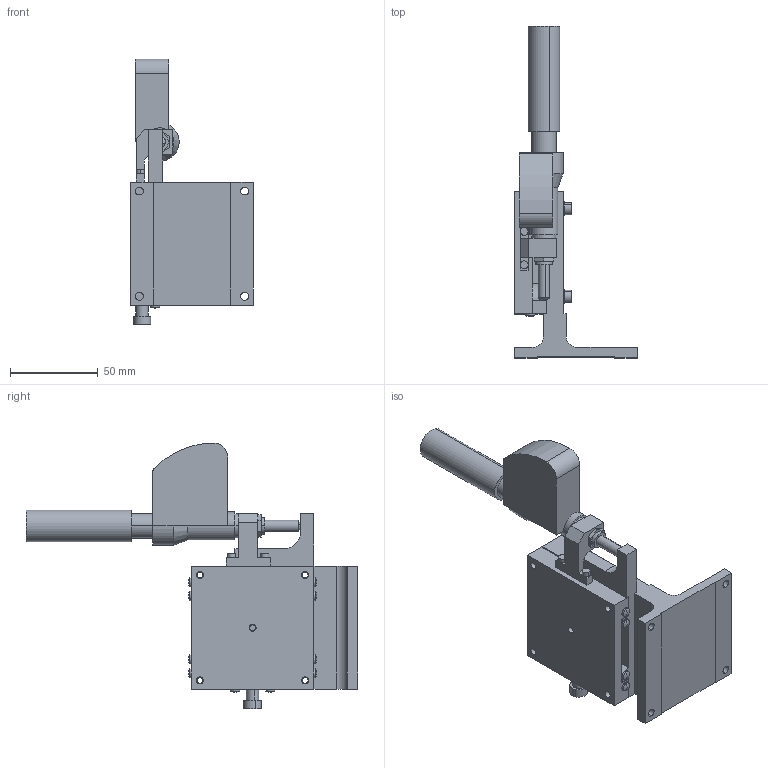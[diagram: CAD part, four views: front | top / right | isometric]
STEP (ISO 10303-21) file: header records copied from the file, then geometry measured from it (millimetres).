
FILE_DESCRIPTION (( 'STEP AP214' ), '1' );
FILE_NAME ('LZ‐7041‐S7.STEP', '2007-08-30T11:31:24', ( '' ), ( '' ), 'SwSTEP 2.0', 'SolidWorks 2006303', '' );
FILE_SCHEMA (( 'AUTOMOTIVE_DESIGN' ));
Length unit declared in the file: millimetre
Products named in the file (3): LZ70S700‐2_ﾃﾞﾌｫﾙﾄ; LZ‐7041‐S7; LZ70S700‐1_ﾃﾞﾌｫﾙﾄ
Assembly tree (2 placements, depth 2):
  LZ‐7041‐S7
    LZ70S700‐1_ﾃﾞﾌｫﾙﾄ
    LZ70S700‐2_ﾃﾞﾌｫﾙﾄ
Bounding box: 70 x 189 x 151.51 mm (x, y, z)
Volume: 235416.1 mm3; surface area: 74692.7 mm2
Topology: 3 solids, 8 shells, 334 faces, 793 edges, 516 vertices
Faces by surface type: cylinder 148, plane 142, sphere 22, cone 22
Entity records: 9911 total; most frequent: DIRECTION 1856, CARTESIAN_POINT 1653, ORIENTED_EDGE 1586, EDGE_CURVE 793, AXIS2_PLACEMENT_3D 725, VERTEX_POINT 516, EDGE_LOOP 417, LINE 406
